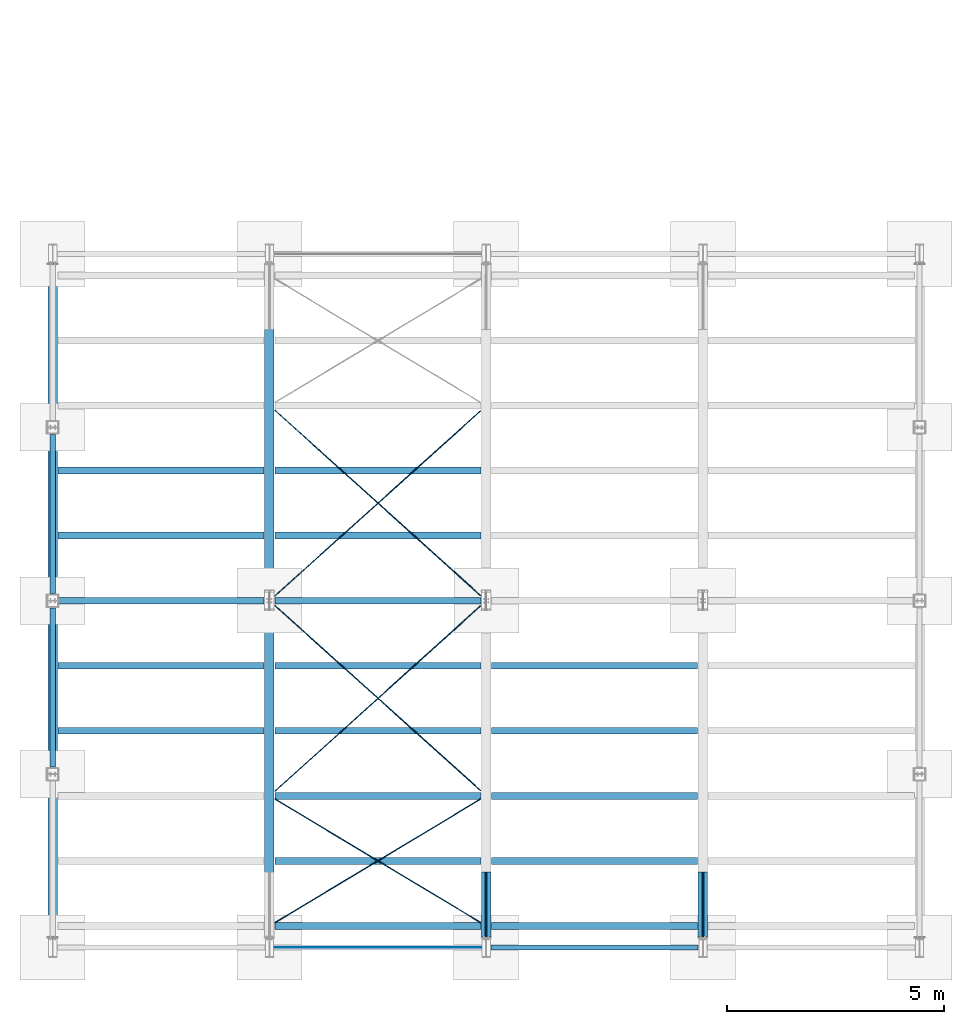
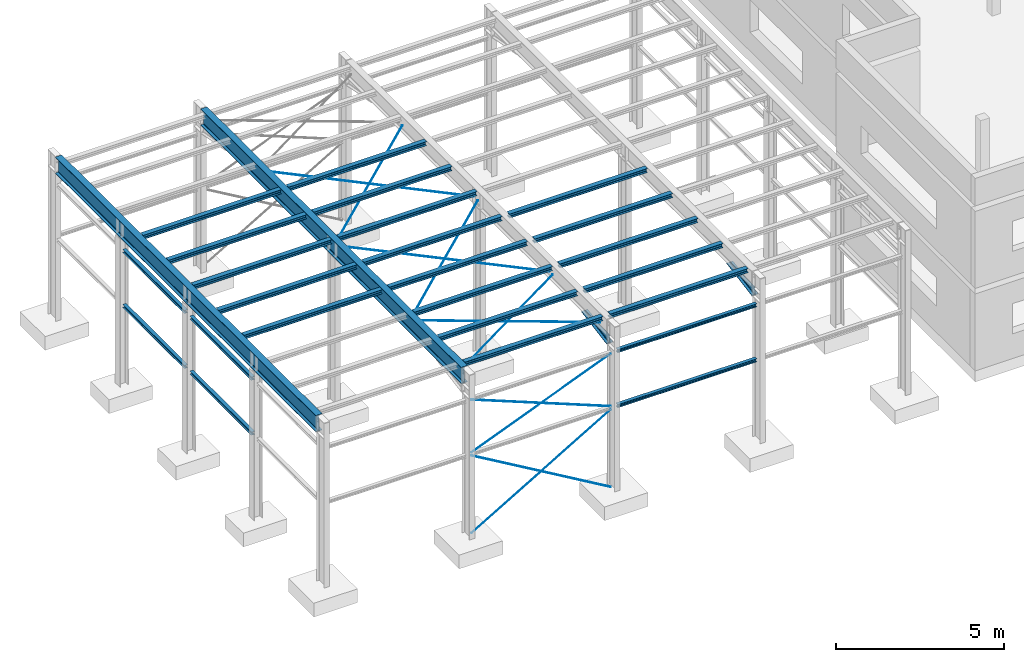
# Not in any storey, part 3 of 50: 36 beams, 2 members, 18 openings.
"""IFC4 model written with IfcOpenShell, lengths in metres."""

from ifc_helpers import new_model, entity, si_unit, converted_unit, derived_unit, direction, frame, frame_2d, origin, origin_2d, place, context, subcontext, project, spatial, polyline, line, arc, indexed_curve, circle, i_section, outline, extrude, clip, halfspace, source, transform, mapped, material, type_object, type_shapes, element, save


model = new_model("IFC4")

# Units and contexts
model_context = context("Model", 3, precision=1e-05, world=origin(), true_north=direction((6.123233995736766e-17, 1.0)))
body_context = subcontext(model_context, "Body", "Model", "MODEL_VIEW")
ifc_project = project(units=[si_unit("LENGTHUNIT", "METRE"), si_unit("AREAUNIT", "SQUARE_METRE"), converted_unit("PLANEANGLEUNIT", "DEGREE", entity("IfcPlaneAngleMeasure", 0.017453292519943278), si_unit("PLANEANGLEUNIT", "RADIAN"), dimensions=[0, 0, 0, 0, 0, 0, 0]), si_unit("VOLUMEUNIT", "CUBIC_METRE"), derived_unit("THERMALTRANSMITTANCEUNIT", [(si_unit("MASSUNIT", "GRAM", prefix="KILO"), 1), (si_unit("THERMODYNAMICTEMPERATUREUNIT", "KELVIN"), -1), (si_unit("TIMEUNIT", "SECOND"), -3)])], contexts=[model_context])

# Site
site_placement = place(None, origin())
site = spatial("IfcSite", under=ifc_project, at=site_placement, Name="Default", CompositionType="ELEMENT")

# Beams
ifc_material = material(Name="Metall - Baustahl S235", Category="Metall")
beam_type_1 = type_object("IfcBeamType", Name="HEA Träger:HEA 120", PredefinedType="BEAM", material=ifc_material)
shared_shape_1 = source(origin(), body_context, "Body", "SweptSolid", [
    extrude(outline(indexed_curve([(-0.060000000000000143, -0.04899999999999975), (-0.060000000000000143, -0.05700000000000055), (0.06000000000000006, -0.05700000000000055), (0.06000000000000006, -0.04899999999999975), (0.01449999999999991, -0.04899999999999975), (0.006014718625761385, -0.04548528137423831), (0.002499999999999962, -0.036999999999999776), (0.002499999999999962, 0.037000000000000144), (0.00601471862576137, 0.04548528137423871), (0.014499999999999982, 0.049000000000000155), (0.06000000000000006, 0.049000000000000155), (0.06000000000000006, 0.05699999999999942), (-0.05999999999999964, 0.05699999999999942), (-0.05999999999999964, 0.049000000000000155), (-0.014500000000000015, 0.049000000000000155), (-0.0060147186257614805, 0.04548528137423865), (-0.002500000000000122, 0.03700000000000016), (-0.002500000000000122, -0.03699999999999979), (-0.006014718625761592, -0.045485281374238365), (-0.014500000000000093, -0.04899999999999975)], segments=[line(1, 2, 3, 4, 5), arc(5, 6, 7), line(7, 8), arc(8, 9, 10), line(10, 11, 12, 13, 14, 15), arc(15, 16, 17), line(17, 18), arc(18, 19, 20), line(20, 1)], self_intersect=False)), frame((-2.392300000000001, 0.0, 0.0), z_axis=(-1.0, 0.0, 0.0), x_axis=(0.0, -1.0, 0.0)), (0.0, 0.0, -1.0), 4.784600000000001),
])
type_shapes(beam_type_1, [shared_shape_1])
for number, where in (
    (1, (15.69014487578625, 1.9297675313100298, 2.9429999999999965)),
    (2, (15.690144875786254, 1.9297675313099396, 4.942999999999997)),
):
    element("IfcBeam", number, at=place(site_placement, frame(where)), inside=site, type_object=beam_type_1, material=ifc_material, Name="HEA Träger:HEA 120", ObjectType="HEA Träger:HEA 120", PredefinedType="BEAM", context=body_context, shape_type="MappedRepresentation", body=[
        mapped(shared_shape_1, transform((0.0, 0.0, 0.0), scale=1.0)),
    ])
beam_type_2 = type_object("IfcBeamType", Name="HEA Träger:HEA 120", PredefinedType="BEAM", material=ifc_material)
shared_shape_2 = source(origin(), body_context, "Body", "SweptSolid", [
    extrude(outline(indexed_curve([(-0.060000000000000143, -0.04899999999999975), (-0.060000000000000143, -0.05700000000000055), (0.06000000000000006, -0.05700000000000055), (0.06000000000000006, -0.04899999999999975), (0.01449999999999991, -0.04899999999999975), (0.006014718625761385, -0.04548528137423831), (0.002499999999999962, -0.036999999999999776), (0.002499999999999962, 0.037000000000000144), (0.00601471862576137, 0.04548528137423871), (0.014499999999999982, 0.049000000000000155), (0.06000000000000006, 0.049000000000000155), (0.06000000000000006, 0.05699999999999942), (-0.05999999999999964, 0.05699999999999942), (-0.05999999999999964, 0.049000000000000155), (-0.014500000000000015, 0.049000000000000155), (-0.0060147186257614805, 0.04548528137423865), (-0.002500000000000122, 0.03700000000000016), (-0.002500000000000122, -0.03699999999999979), (-0.006014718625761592, -0.045485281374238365), (-0.014500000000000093, -0.04899999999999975)], segments=[line(1, 2, 3, 4, 5), arc(5, 6, 7), line(7, 8), arc(8, 9, 10), line(10, 11, 12, 13, 14, 15), arc(15, 16, 17), line(17, 18), arc(18, 19, 20), line(20, 1)], self_intersect=False)), frame((-1.8372999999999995, 0.0, 0.0), z_axis=(-1.0, 0.0, 0.0), x_axis=(0.0, -1.0, 0.0)), (0.0, 0.0, -1.0), 3.6746000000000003),
])
type_shapes(beam_type_2, [shared_shape_2])
for number, where, z_axis, x_axis in (
    (3, (3.1901448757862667, 11.929767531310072, 2.9429999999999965), (0.0, 0.0, 1.0), (0.0, -1.0, 0.0)),
    (4, (3.19014487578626, 7.9297675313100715, 2.9429999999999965), (0.0, 0.0, 1.0), (0.0, -1.0, 0.0)),
    (5, (3.1901448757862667, 11.929767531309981, 4.942999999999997), (0.0, 0.0, 1.0), (0.0, -1.0, 0.0)),
    (6, (3.19014487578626, 7.929767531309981, 4.942999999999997), (0.0, 0.0, 1.0), (0.0, -1.0, 0.0)),
):
    element("IfcBeam", number, at=place(site_placement, frame(where, z_axis=z_axis, x_axis=x_axis)), inside=site, type_object=beam_type_2, material=ifc_material, Name="HEA Träger:HEA 120", ObjectType="HEA Träger:HEA 120", PredefinedType="BEAM", context=body_context, shape_type="MappedRepresentation", body=[
        mapped(shared_shape_2, transform((0.0, 0.0, 0.0), scale=1.0)),
    ])
beam_type_3 = type_object("IfcBeamType", Name="Rundstahl Träger:RB 20", PredefinedType="BEAM", material=ifc_material)
shared_shape_3 = source(origin(), body_context, "Body", "SweptSolid", [
    extrude(outline(indexed_curve([(-0.01, -8.269460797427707e-18), (-5.599682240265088e-17, -0.010000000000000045), (0.01, 8.269460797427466e-18), (-1.1359053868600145e-17, 0.009999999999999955)], segments=[arc(1, 2, 3), arc(3, 4, 1)], self_intersect=False)), frame((-2.7779499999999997, 0.0, 0.0), z_axis=(1.0, 0.0, 0.0), x_axis=(0.0, -1.0, 0.0)), (0.0, 0.0, 1.0), 5.5441),
])
type_shapes(beam_type_3, [shared_shape_3])
for number, where, z_axis, x_axis in (
    (7, (10.695217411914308, 1.9297675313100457, 1.4628820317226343), (-0.5072536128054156, 0.0, 0.8617968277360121), (0.861796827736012, 0.0, 0.5072536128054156)),
    (8, (10.685072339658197, 1.9297675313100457, 1.4628820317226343), (0.5072536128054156, 0.0, 0.8617968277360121), (-0.861796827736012, 0.0, 0.5072536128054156)),
):
    element("IfcBeam", number, at=place(site_placement, frame(where, z_axis=z_axis, x_axis=x_axis)), inside=site, type_object=beam_type_3, material=ifc_material, Name="Rundstahl Träger:RB 20", ObjectType="Rundstahl Träger:RB 20", PredefinedType="BEAM", context=body_context, shape_type="MappedRepresentation", body=[
        mapped(shared_shape_3, transform((0.0, 0.0, 0.0), scale=1.0)),
    ])
beam_type_4 = type_object("IfcBeamType", Name="HEA Träger:HEA 160", PredefinedType="JOIST", material=ifc_material)
shared_shape_4 = source(origin(), body_context, "Body", "SweptSolid", [
    extrude(outline(indexed_curve([(-0.08000000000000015, -0.06699999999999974), (-0.08000000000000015, -0.07600000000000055), (0.08000000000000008, -0.07600000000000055), (0.08000000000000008, -0.06699999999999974), (0.01799999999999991, -0.06699999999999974), (0.007393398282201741, -0.06260660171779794), (0.002999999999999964, -0.051999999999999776), (0.0029999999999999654, 0.05200000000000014), (0.0073933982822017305, 0.06260660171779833), (0.017999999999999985, 0.06700000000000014), (0.08000000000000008, 0.06700000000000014), (0.08000000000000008, 0.07599999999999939), (-0.07999999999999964, 0.07599999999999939), (-0.07999999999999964, 0.06700000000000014), (-0.017999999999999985, 0.06700000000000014), (-0.007393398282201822, 0.06260660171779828), (-0.0030000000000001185, 0.05200000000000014), (-0.0030000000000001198, -0.051999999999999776), (-0.007393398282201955, -0.062606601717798), (-0.018000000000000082, -0.06699999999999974)], segments=[line(1, 2, 3, 4, 5), arc(5, 6, 7), line(7, 8), arc(8, 9, 10), line(10, 11, 12, 13, 14, 15), arc(15, 16, 17), line(17, 18), arc(18, 19, 20), line(20, 1)], self_intersect=False)), frame((-2.377300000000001, 0.0, 0.0), z_axis=(-1.0, 0.0, 0.0), x_axis=(0.0, -1.0, 0.0)), (0.0, 0.0, -1.0), 4.754600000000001),
])
type_shapes(beam_type_4, [shared_shape_4])
for number, where in (
    (9, (10.690144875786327, 2.429767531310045, 5.923999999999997)),
    (10, (15.690144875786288, 2.429767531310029, 5.923999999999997)),
    (11, (10.69014487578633, 3.9297675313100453, 5.923999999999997)),
    (12, (15.69014487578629, 3.9297675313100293, 5.923999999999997)),
    (13, (10.690144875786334, 5.429767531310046, 5.923999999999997)),
    (14, (15.690144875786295, 5.42976753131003, 5.923999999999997)),
    (15, (5.690144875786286, 6.929767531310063, 5.923999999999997)),
    (16, (10.690144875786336, 6.929767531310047, 5.923999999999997)),
    (17, (15.690144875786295, 6.92976753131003, 5.923999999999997)),
    (18, (5.690144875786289, 8.429767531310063, 5.923999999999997)),
    (19, (10.690144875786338, 8.429767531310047, 5.923999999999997)),
    (20, (15.690144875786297, 8.42976753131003, 5.923999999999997)),
    (21, (5.690144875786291, 9.929767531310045, 5.923999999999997)),
    (22, (10.69014487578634, 9.929767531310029, 5.923999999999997)),
):
    element("IfcBeam", number, at=place(site_placement, frame(where)), inside=site, type_object=beam_type_4, material=ifc_material, Name="HEA Träger:HEA 160", ObjectType="HEA Träger:HEA 160", PredefinedType="JOIST", context=body_context, shape_type="MappedRepresentation", body=[
        mapped(shared_shape_4, transform((0.0, 0.0, 0.0), scale=1.0)),
    ])
beam_type_5 = type_object("IfcBeamType", Name="HEA Träger:HEA 160", PredefinedType="JOIST", material=ifc_material)
shared_shape_5 = source(origin(), body_context, "Body", "SweptSolid", [
    extrude(outline(indexed_curve([(0.06699999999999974, -0.08000000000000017), (0.07600000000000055, -0.08000000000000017), (0.07600000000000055, 0.08000000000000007), (0.06699999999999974, 0.08000000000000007), (0.06699999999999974, 0.017999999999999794), (0.06260660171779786, 0.0073933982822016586), (0.051999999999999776, 0.0029999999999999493), (-0.052000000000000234, 0.0029999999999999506), (-0.0626066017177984, 0.007393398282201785), (-0.06700000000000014, 0.017999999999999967), (-0.06700000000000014, 0.08000000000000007), (-0.07599999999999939, 0.08000000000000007), (-0.07599999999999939, -0.07999999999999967), (-0.06700000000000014, -0.07999999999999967), (-0.06700000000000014, -0.017999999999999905), (-0.06260660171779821, -0.007393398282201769), (-0.05200000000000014, -0.003000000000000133), (0.05199999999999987, -0.0030000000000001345), (0.06260660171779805, -0.007393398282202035), (0.06699999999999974, -0.018000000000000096)], segments=[line(1, 2, 3, 4, 5), arc(5, 6, 7), line(7, 8), arc(8, 9, 10), line(10, 11, 12, 13, 14, 15), arc(15, 16, 17), line(17, 18), arc(18, 19, 20), line(20, 1)], self_intersect=False)), frame((-2.377300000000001, 0.0, 0.0), z_axis=(1.0, 0.0, 0.0), x_axis=(0.0, 0.0, -1.0)), (0.0, 0.0, 1.0), 4.7546),
])
type_shapes(beam_type_5, [shared_shape_5])
for number, where in (
    (23, (5.6901448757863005, 12.929767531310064, 5.923999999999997)),
    (24, (10.690144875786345, 12.92976753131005, 5.923999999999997)),
    (25, (5.690144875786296, 11.429767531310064, 5.923999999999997)),
    (26, (10.690144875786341, 11.42976753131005, 5.923999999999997)),
):
    element("IfcBeam", number, at=place(site_placement, frame(where)), inside=site, type_object=beam_type_5, material=ifc_material, Name="HEA Träger:HEA 160", ObjectType="HEA Träger:HEA 160", PredefinedType="JOIST", context=body_context, shape_type="MappedRepresentation", body=[
        mapped(shared_shape_5, transform((0.0, 0.0, 0.0), scale=1.0)),
    ])
beam_type_6 = type_object("IfcBeamType", Name="Rundstahl Träger:RB 20", PredefinedType="BEAM", material=ifc_material)
shared_shape_6 = source(origin(), body_context, "Body", "SweptSolid", [
    extrude(outline(indexed_curve([(-0.01, -8.269460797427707e-18), (-5.593868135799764e-17, -0.010000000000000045), (0.01, 8.269460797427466e-18), (-1.13009128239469e-17, 0.009999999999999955)], segments=[arc(1, 2, 3), arc(3, 4, 1)], self_intersect=False)), frame((-2.7691500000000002, 0.0, 0.0), z_axis=(1.0, 0.0, 0.0), x_axis=(0.0, -1.0, 0.0)), (0.0, 0.0, 1.0), 5.5383000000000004),
])
type_shapes(beam_type_6, [shared_shape_6])
beam_1_placement = place(site_placement, frame((10.69014487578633, 3.9283562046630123, 5.699999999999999), z_axis=(0.0, 0.0, 1.0), x_axis=(0.8572793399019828, 0.5148515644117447, 0.0)))
element("IfcBeam", 27, at=beam_1_placement, inside=site, type_object=beam_type_6, material=ifc_material, Name="Rundstahl Träger:RB 20", ObjectType="Rundstahl Träger:RB 20", PredefinedType="BEAM", context=body_context, shape_type="MappedRepresentation", body=[
    mapped(shared_shape_6, transform((0.0, 0.0, 0.0), scale=1.0)),
])
beam_type_7 = type_object("IfcBeamType", Name="Rundstahl Träger:RB 20", PredefinedType="BEAM", material=ifc_material)
shared_shape_7 = source(origin(), body_context, "Body", "SweptSolid", [
    extrude(outline(indexed_curve([(-0.01, -8.269460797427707e-18), (-5.433060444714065e-17, -0.010000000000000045), (0.01, 8.269460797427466e-18), (-9.692835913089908e-18, 0.009999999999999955)], segments=[arc(1, 2, 3), arc(3, 4, 1)], self_intersect=False)), frame((-3.1914499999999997, 0.0, 0.0), z_axis=(1.0, 0.0, 0.0), x_axis=(0.0, -1.0, 0.0)), (0.0, 0.0, 1.0), 6.3829),
])
type_shapes(beam_type_7, [shared_shape_7])
beam_2_placement = place(site_placement, frame((10.690144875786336, 7.683290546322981, 5.699999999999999), z_axis=(0.0, 0.0, 1.0), x_axis=(-0.7438151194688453, 0.6683854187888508, 0.0)))
element("IfcBeam", 28, at=beam_2_placement, inside=site, type_object=beam_type_7, material=ifc_material, Name="Rundstahl Träger:RB 20", ObjectType="Rundstahl Träger:RB 20", PredefinedType="BEAM", context=body_context, shape_type="MappedRepresentation", body=[
    mapped(shared_shape_7, transform((0.0, 0.0, 0.0), scale=1.0)),
])
beam_type_8 = type_object("IfcBeamType", Name="Rundstahl Träger:RB 20", PredefinedType="JOIST", material=ifc_material)
shared_shape_8 = source(origin(), body_context, "Body", "SweptSolid", [
    extrude(outline(indexed_curve([(-0.01, -8.269460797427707e-18), (-5.4341673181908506e-17, -0.010000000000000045), (0.01, 8.269460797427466e-18), (-9.703904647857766e-18, 0.009999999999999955)], segments=[arc(1, 2, 3), arc(3, 4, 1)], self_intersect=False)), frame((-2.7657, 0.0, 0.0), z_axis=(1.0, 0.0, 0.0), x_axis=(0.0, -1.0, 0.0)), (0.0, 0.0, 1.0), 5.536900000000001),
])
type_shapes(beam_type_8, [shared_shape_8])
beam_3_placement = place(site_placement, frame((10.692494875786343, 3.9283575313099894, 5.699999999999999), z_axis=(0.0, 0.0, 1.0), x_axis=(-0.857492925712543, 0.5144957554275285, 0.0)))
element("IfcBeam", 29, at=beam_3_placement, inside=site, type_object=beam_type_8, material=ifc_material, Name="Rundstahl Träger:RB 20", ObjectType="Rundstahl Träger:RB 20", PredefinedType="JOIST", context=body_context, shape_type="MappedRepresentation", body=[
    mapped(shared_shape_8, transform((0.0, 0.0, 0.0), scale=1.0)),
])
beam_type_9 = type_object("IfcBeamType", Name="Rundstahl Träger:RB 20", PredefinedType="BEAM", material=ifc_material)
shared_shape_9 = source(origin(), body_context, "Body", "SweptSolid", [
    extrude(outline(indexed_curve([(-0.01, -8.269460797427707e-18), (-5.431181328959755e-17, -0.010000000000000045), (0.01, 8.269460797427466e-18), (-9.67404475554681e-18, 0.009999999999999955)], segments=[arc(1, 2, 3), arc(3, 4, 1)], self_intersect=False)), frame((-3.1977, 0.0, 0.0), z_axis=(1.0, 0.0, 0.0), x_axis=(0.0, -1.0, 0.0)), (0.0, 0.0, 1.0), 6.389100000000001),
])
type_shapes(beam_type_9, [shared_shape_9])
beam_4_placement = place(site_placement, frame((10.692494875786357, 7.676241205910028, 5.699999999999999), z_axis=(0.0, 0.0, 1.0), x_axis=(0.7430857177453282, 0.6691962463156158, 0.0)))
element("IfcBeam", 30, at=beam_4_placement, inside=site, type_object=beam_type_9, material=ifc_material, Name="Rundstahl Träger:RB 20", ObjectType="Rundstahl Träger:RB 20", PredefinedType="BEAM", context=body_context, shape_type="MappedRepresentation", body=[
    mapped(shared_shape_9, transform((0.0, 0.0, 0.0), scale=1.0)),
])
beam_type_10 = type_object("IfcBeamType", Name="Rundstahl Träger:RB 20", PredefinedType="BEAM", material=ifc_material)
shared_shape_10 = source(origin(), body_context, "Body", "SweptSolid", [
    extrude(outline(indexed_curve([(-0.01, 1.6155445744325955e-17), (-7.209417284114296e-17, -0.010000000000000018), (0.01, -1.6155445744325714e-17), (1.4732070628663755e-17, 0.009999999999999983)], segments=[arc(1, 2, 3), arc(3, 4, 1)], self_intersect=False)), frame((-3.1914499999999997, 0.0, 0.0), z_axis=(1.0, 0.0, 0.0), x_axis=(0.0, 1.0, 0.0)), (0.0, 0.0, 1.0), 6.3829),
])
type_shapes(beam_type_10, [shared_shape_10])
beam_5_placement = place(site_placement, frame((10.690144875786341, 12.17624451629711, 5.699999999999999), z_axis=(0.0, 0.0, 1.0), x_axis=(-0.7438151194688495, -0.6683854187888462, 0.0)))
element("IfcBeam", 31, at=beam_5_placement, inside=site, type_object=beam_type_10, material=ifc_material, Name="Rundstahl Träger:RB 20", ObjectType="Rundstahl Träger:RB 20", PredefinedType="BEAM", context=body_context, shape_type="MappedRepresentation", body=[
    mapped(shared_shape_10, transform((0.0, 0.0, 0.0), scale=1.0)),
])
beam_type_11 = type_object("IfcBeamType", Name="Rundstahl Träger:RB 20", PredefinedType="BEAM", material=ifc_material)
shared_shape_11 = source(origin(), body_context, "Body", "SweptSolid", [
    extrude(outline(indexed_curve([(-0.01, 1.6155445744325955e-17), (-7.207538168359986e-17, -0.010000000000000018), (0.01, -1.6155445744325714e-17), (1.4750861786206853e-17, 0.009999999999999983)], segments=[arc(1, 2, 3), arc(3, 4, 1)], self_intersect=False)), frame((-3.1977, 0.0, 0.0), z_axis=(1.0, 0.0, 0.0), x_axis=(0.0, 1.0, 0.0)), (0.0, 0.0, 1.0), 6.389100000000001),
])
type_shapes(beam_type_11, [shared_shape_11])
beam_6_placement = place(site_placement, frame((10.692494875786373, 12.183293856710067, 5.699999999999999), z_axis=(0.0, 0.0, 1.0), x_axis=(0.7430857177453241, -0.6691962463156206, 0.0)))
element("IfcBeam", 32, at=beam_6_placement, inside=site, type_object=beam_type_11, material=ifc_material, Name="Rundstahl Träger:RB 20", ObjectType="Rundstahl Träger:RB 20", PredefinedType="BEAM", context=body_context, shape_type="MappedRepresentation", body=[
    mapped(shared_shape_11, transform((0.0, 0.0, 0.0), scale=1.0)),
])
beam_type_12 = type_object("IfcBeamType", Name="Rundstahl Träger:RB 20", PredefinedType="BEAM", material=ifc_material)
shared_shape_12 = source(origin(), body_context, "Body", "SweptSolid", [
    extrude(outline(indexed_curve([(-0.01, -8.269460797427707e-18), (-5.551158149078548e-17, -0.010000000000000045), (0.01, 8.269460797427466e-18), (-1.0873812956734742e-17, 0.009999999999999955)], segments=[arc(1, 2, 3), arc(3, 4, 1)], self_intersect=False)), frame((-2.5735500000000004, 0.0, 0.0), z_axis=(1.0, 0.0, 0.0), x_axis=(0.0, -1.0, 0.0)), (0.0, 0.0, 1.0), 5.147100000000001),
])
type_shapes(beam_type_12, [shared_shape_12])
for number, where, z_axis, x_axis in (
    (33, (10.69014487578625, 1.9297675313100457, 3.9429999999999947), (0.3713906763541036, 0.0, 0.9284766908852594), (-0.9284766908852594, 0.0, 0.37139067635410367)),
    (34, (10.69014487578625, 1.9297675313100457, 3.9429999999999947), (-0.37139067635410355, 0.0, 0.9284766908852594), (0.9284766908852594, 0.0, 0.37139067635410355)),
):
    element("IfcBeam", number, at=place(site_placement, frame(where, z_axis=z_axis, x_axis=x_axis)), inside=site, type_object=beam_type_12, material=ifc_material, Name="Rundstahl Träger:RB 20", ObjectType="Rundstahl Träger:RB 20", PredefinedType="BEAM", context=body_context, shape_type="MappedRepresentation", body=[
        mapped(shared_shape_12, transform((0.0, 0.0, 0.0), scale=1.0)),
    ])

# Beam, openings
beam_type_13 = type_object("IfcBeamType", Name="IPE Träger:IPE 600", PredefinedType="BEAM")
beam_7_placement = place(site_placement, frame((8.190144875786, 18.849298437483, 5.7), z_axis=(0.0, 1.0, 0.0), x_axis=(-1.0, 0.0, 0.0)))
beam_7 = element("IfcBeam", 35, at=beam_7_placement, inside=site, type_object=beam_type_13, material=ifc_material, Name="IPE Träger:IPE 600", ObjectType="IPE 600", context=model_context, shape_type="Clipping", body=[
    clip(clip(extrude(i_section(OverallWidth=0.22, OverallDepth=0.6, WebThickness=0.012, FlangeThickness=0.019, FilletRadius=0.024, at=origin_2d()), origin(), (0.0, 0.0, -1.0), 17.839061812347), halfspace(frame((8.190144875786, -5.7, -1.1595319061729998), z_axis=(0.0, 0.0, -1.0), x_axis=(-1.0, 0.0, 0.0)), True)), halfspace(frame((8.190144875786, -5.7, -16.679529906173), z_axis=(0.0, 0.0, 1.0), x_axis=(1.0, 0.0, 0.0)), True)),
])
opening_1_placement = place(beam_7_placement, frame((0.0, -0.3005, -8.919530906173), z_axis=(0.0, 1.0, 0.0), x_axis=(0.0, 0.0, 1.0)))
element("IfcOpeningElement", 36, at=opening_1_placement, cuts=beam_7, ObjectType="Opening", context=model_context, shape_type="SweptSolid", body=[
    extrude(circle(Radius=0.009000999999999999, at=frame_2d((0.0375, 0.05), x_axis=(1.0, 0.0))), origin(), (0.0, 0.0, 1.0), 0.02),
])
opening_2_placement = place(beam_7_placement, frame((0.0, -0.3005, -8.919530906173), z_axis=(0.0, 1.0, 0.0), x_axis=(0.0, 0.0, 1.0)))
element("IfcOpeningElement", 37, at=opening_2_placement, cuts=beam_7, ObjectType="Opening", context=model_context, shape_type="SweptSolid", body=[
    extrude(circle(Radius=0.009000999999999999, at=frame_2d((-0.0375, 0.05), x_axis=(1.0, 0.0))), origin(), (0.0, 0.0, 1.0), 0.02),
])
opening_3_placement = place(beam_7_placement, frame((0.0, -0.3005, -8.919530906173), z_axis=(0.0, 1.0, 0.0), x_axis=(0.0, 0.0, 1.0)))
element("IfcOpeningElement", 38, at=opening_3_placement, cuts=beam_7, ObjectType="Opening", context=model_context, shape_type="SweptSolid", body=[
    extrude(circle(Radius=0.009000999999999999, at=frame_2d((0.0375, -0.05), x_axis=(1.0, 0.0))), origin(), (0.0, 0.0, 1.0), 0.02),
])
opening_4_placement = place(beam_7_placement, frame((0.0, -0.3005, -8.919530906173), z_axis=(0.0, 1.0, 0.0), x_axis=(0.0, 0.0, 1.0)))
element("IfcOpeningElement", 39, at=opening_4_placement, cuts=beam_7, ObjectType="Opening", context=model_context, shape_type="SweptSolid", body=[
    extrude(circle(Radius=0.009000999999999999, at=frame_2d((-0.0375, -0.05), x_axis=(1.0, 0.0))), origin(), (0.0, 0.0, 1.0), 0.02),
])

beam_8_placement = place(site_placement, frame((3.190144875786, 18.849298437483, 5.7), z_axis=(0.0, 1.0, 0.0), x_axis=(-1.0, 0.0, 0.0)))
beam_8 = element("IfcBeam", 40, at=beam_8_placement, inside=site, type_object=beam_type_13, material=ifc_material, Name="IPE Träger:IPE 600", ObjectType="IPE 600", context=model_context, shape_type="Clipping", body=[
    clip(clip(extrude(i_section(OverallWidth=0.22, OverallDepth=0.6, WebThickness=0.012, FlangeThickness=0.019, FilletRadius=0.024, at=origin_2d()), origin(), (0.0, 0.0, -1.0), 17.839061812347), halfspace(frame((3.190144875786, -5.7, -1.1595319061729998), z_axis=(0.0, 0.0, -1.0), x_axis=(-1.0, 0.0, 0.0)), True)), halfspace(frame((3.190144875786, -5.7, -16.679529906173), z_axis=(0.0, 0.0, 1.0), x_axis=(1.0, 0.0, 0.0)), True)),
])
opening_5_placement = place(beam_8_placement, frame((0.0, -0.3005, -4.919530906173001), z_axis=(0.0, 1.0, 0.0), x_axis=(0.0, 0.0, 1.0)))
element("IfcOpeningElement", 41, at=opening_5_placement, cuts=beam_8, ObjectType="Opening", context=model_context, shape_type="SweptSolid", body=[
    extrude(circle(Radius=0.009000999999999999, at=frame_2d((0.0375, 0.05), x_axis=(1.0, 0.0))), origin(), (0.0, 0.0, 1.0), 0.02),
])
opening_6_placement = place(beam_8_placement, frame((0.0, -0.3005, -4.919530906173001), z_axis=(0.0, 1.0, 0.0), x_axis=(0.0, 0.0, 1.0)))
element("IfcOpeningElement", 42, at=opening_6_placement, cuts=beam_8, ObjectType="Opening", context=model_context, shape_type="SweptSolid", body=[
    extrude(circle(Radius=0.009000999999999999, at=frame_2d((-0.0375, 0.05), x_axis=(1.0, 0.0))), origin(), (0.0, 0.0, 1.0), 0.02),
])
opening_7_placement = place(beam_8_placement, frame((0.0, -0.3005, -4.919530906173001), z_axis=(0.0, 1.0, 0.0), x_axis=(0.0, 0.0, 1.0)))
element("IfcOpeningElement", 43, at=opening_7_placement, cuts=beam_8, ObjectType="Opening", context=model_context, shape_type="SweptSolid", body=[
    extrude(circle(Radius=0.009000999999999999, at=frame_2d((0.0375, -0.05), x_axis=(1.0, 0.0))), origin(), (0.0, 0.0, 1.0), 0.02),
])
opening_8_placement = place(beam_8_placement, frame((0.0, -0.3005, -4.919530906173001), z_axis=(0.0, 1.0, 0.0), x_axis=(0.0, 0.0, 1.0)))
element("IfcOpeningElement", 44, at=opening_8_placement, cuts=beam_8, ObjectType="Opening", context=model_context, shape_type="SweptSolid", body=[
    extrude(circle(Radius=0.009000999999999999, at=frame_2d((-0.0375, -0.05), x_axis=(1.0, 0.0))), origin(), (0.0, 0.0, 1.0), 0.02),
])
opening_9_placement = place(beam_8_placement, frame((0.0, -0.3005, -8.919530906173), z_axis=(0.0, 1.0, 0.0), x_axis=(0.0, 0.0, 1.0)))
element("IfcOpeningElement", 45, at=opening_9_placement, cuts=beam_8, ObjectType="Opening", context=model_context, shape_type="SweptSolid", body=[
    extrude(circle(Radius=0.009000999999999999, at=frame_2d((0.0375, 0.05), x_axis=(1.0, 0.0))), origin(), (0.0, 0.0, 1.0), 0.02),
])
opening_10_placement = place(beam_8_placement, frame((0.0, -0.3005, -8.919530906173), z_axis=(0.0, 1.0, 0.0), x_axis=(0.0, 0.0, 1.0)))
element("IfcOpeningElement", 46, at=opening_10_placement, cuts=beam_8, ObjectType="Opening", context=model_context, shape_type="SweptSolid", body=[
    extrude(circle(Radius=0.009000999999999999, at=frame_2d((-0.0375, 0.05), x_axis=(1.0, 0.0))), origin(), (0.0, 0.0, 1.0), 0.02),
])
opening_11_placement = place(beam_8_placement, frame((0.0, -0.3005, -8.919530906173), z_axis=(0.0, 1.0, 0.0), x_axis=(0.0, 0.0, 1.0)))
element("IfcOpeningElement", 47, at=opening_11_placement, cuts=beam_8, ObjectType="Opening", context=model_context, shape_type="SweptSolid", body=[
    extrude(circle(Radius=0.009000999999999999, at=frame_2d((0.0375, -0.05), x_axis=(1.0, 0.0))), origin(), (0.0, 0.0, 1.0), 0.02),
])
opening_12_placement = place(beam_8_placement, frame((0.0, -0.3005, -8.919530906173), z_axis=(0.0, 1.0, 0.0), x_axis=(0.0, 0.0, 1.0)))
element("IfcOpeningElement", 48, at=opening_12_placement, cuts=beam_8, ObjectType="Opening", context=model_context, shape_type="SweptSolid", body=[
    extrude(circle(Radius=0.009000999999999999, at=frame_2d((-0.0375, -0.05), x_axis=(1.0, 0.0))), origin(), (0.0, 0.0, 1.0), 0.02),
])
opening_13_placement = place(beam_8_placement, frame((0.0, -0.3005, -12.919530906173), z_axis=(0.0, 1.0, 0.0), x_axis=(0.0, 0.0, -1.0)))
element("IfcOpeningElement", 49, at=opening_13_placement, cuts=beam_8, ObjectType="Opening", context=model_context, shape_type="SweptSolid", body=[
    extrude(circle(Radius=0.009000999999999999, at=frame_2d((0.0375, 0.05), x_axis=(1.0, 0.0))), origin(), (0.0, 0.0, 1.0), 0.02),
])
opening_14_placement = place(beam_8_placement, frame((0.0, -0.3005, -12.919530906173), z_axis=(0.0, 1.0, 0.0), x_axis=(0.0, 0.0, -1.0)))
element("IfcOpeningElement", 50, at=opening_14_placement, cuts=beam_8, ObjectType="Opening", context=model_context, shape_type="SweptSolid", body=[
    extrude(circle(Radius=0.009000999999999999, at=frame_2d((-0.0375, 0.05), x_axis=(1.0, 0.0))), origin(), (0.0, 0.0, 1.0), 0.02),
])
opening_15_placement = place(beam_8_placement, frame((0.0, -0.3005, -12.919530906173), z_axis=(0.0, 1.0, 0.0), x_axis=(0.0, 0.0, -1.0)))
element("IfcOpeningElement", 51, at=opening_15_placement, cuts=beam_8, ObjectType="Opening", context=model_context, shape_type="SweptSolid", body=[
    extrude(circle(Radius=0.009000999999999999, at=frame_2d((0.0375, -0.05), x_axis=(1.0, 0.0))), origin(), (0.0, 0.0, 1.0), 0.02),
])
opening_16_placement = place(beam_8_placement, frame((0.0, -0.3005, -12.919530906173), z_axis=(0.0, 1.0, 0.0), x_axis=(0.0, 0.0, -1.0)))
element("IfcOpeningElement", 52, at=opening_16_placement, cuts=beam_8, ObjectType="Opening", context=model_context, shape_type="SweptSolid", body=[
    extrude(circle(Radius=0.009000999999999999, at=frame_2d((-0.0375, -0.05), x_axis=(1.0, 0.0))), origin(), (0.0, 0.0, 1.0), 0.02),
])

# Member, opening
member_1_placement = place(site_placement, frame((18.190144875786, 1.197182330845, 5.230050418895), z_axis=(0.0, -0.984238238, -0.176847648), x_axis=(1.0, 0.0, 0.0)))
member_1 = element("IfcMember", 53, at=member_1_placement, inside=site, Name="Haunch", ObjectType="Haunch", context=model_context, shape_type="Clipping", body=[
    clip(clip(clip(extrude(i_section(OverallWidth=0.22, OverallDepth=0.6, WebThickness=0.012, FlangeThickness=0.019, FilletRadius=0.024, at=origin_2d()), origin(), (0.0, 0.0, -1.0), 7.830197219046), halfspace(frame((-18.190144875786, -5.319615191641, -0.032334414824), z_axis=(0.0, -0.176847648, -0.984238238), x_axis=(-1.0, 0.0, 0.0)), True)), halfspace(frame((-18.190144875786, 0.37898877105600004, 1.148257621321), z_axis=(0.0, -0.984238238, 0.176847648), x_axis=(-1.0, 0.0, 0.0)), True)), halfspace(frame((-18.190144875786, -5.584886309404, -1.508689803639), z_axis=(0.0, 0.176847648, 0.984238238), x_axis=(1.0, 0.0, 0.0)), True)),
])
opening_17_placement = place(member_1_placement, frame((0.21009999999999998, -0.3, -0.9342564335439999), z_axis=(-1.0, 0.0, 0.0), x_axis=(0.0, 0.176847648, 0.984238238)))
element("IfcOpeningElement", 54, at=opening_17_placement, cuts=member_1, ObjectType="Opening", context=model_context, shape_type="SweptSolid", body=[
    extrude(outline(polyline([(1e-06, 0.30000099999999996), (-0.030002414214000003, 0.30000099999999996), (1e-06, 0.269997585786), (1e-06, 0.30000099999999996)])), origin(), (0.0, 0.0, 1.0), 0.42019999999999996),
])

member_2_placement = place(site_placement, frame((13.190144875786, 1.197182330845, 5.230050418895), z_axis=(0.0, -0.984238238, -0.176847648), x_axis=(1.0, 0.0, 0.0)))
member_2 = element("IfcMember", 55, at=member_2_placement, inside=site, Name="Haunch", ObjectType="Haunch", context=model_context, shape_type="Clipping", body=[
    clip(clip(clip(extrude(i_section(OverallWidth=0.22, OverallDepth=0.6, WebThickness=0.012, FlangeThickness=0.019, FilletRadius=0.024, at=origin_2d()), origin(), (0.0, 0.0, -1.0), 7.830197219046), halfspace(frame((-13.190144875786, -5.319615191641, -0.032334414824), z_axis=(0.0, -0.176847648, -0.984238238), x_axis=(-1.0, 0.0, 0.0)), True)), halfspace(frame((-13.190144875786, 0.37898877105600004, 1.148257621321), z_axis=(0.0, -0.984238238, 0.176847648), x_axis=(-1.0, 0.0, 0.0)), True)), halfspace(frame((-13.190144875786, -5.584886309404, -1.508689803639), z_axis=(0.0, 0.176847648, 0.984238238), x_axis=(1.0, 0.0, 0.0)), True)),
])
opening_18_placement = place(member_2_placement, frame((0.21009999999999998, -0.3, -0.9342564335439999), z_axis=(-1.0, 0.0, 0.0), x_axis=(0.0, 0.176847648, 0.984238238)))
element("IfcOpeningElement", 56, at=opening_18_placement, cuts=member_2, ObjectType="Opening", context=model_context, shape_type="SweptSolid", body=[
    extrude(outline(polyline([(1e-06, 0.30000099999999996), (-0.030002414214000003, 0.30000099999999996), (1e-06, 0.269997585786), (1e-06, 0.30000099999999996)])), origin(), (0.0, 0.0, 1.0), 0.42019999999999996),
])

save(model, "model.ifc")
